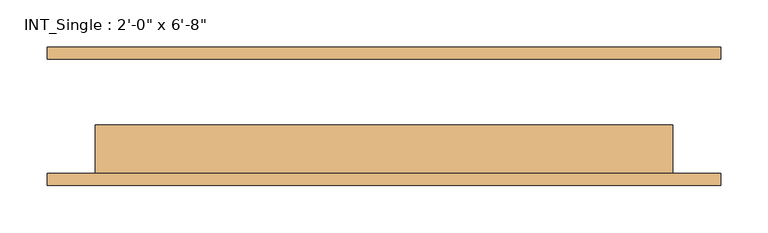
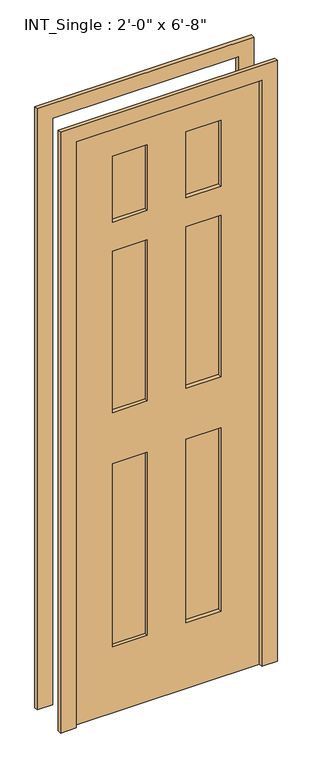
"""IFC4 building model written with IfcOpenShell, lengths in millimetres: door geometry."""

from ifc_helpers import new_model, si_unit, frame, origin, place, context, project, spatial, polyline, outline, extrude, source, transform, mapped, element, save


def door_b314dff3(model_context):
    return source(origin(), model_context, "Body", "SweptSolid", [
        extrude(outline(polyline([(0.0, -355.6), (0.0, -304.8), (2032.0, -304.8), (2032.0, 304.8), (0.0, 304.8), (0.0, 355.6), (2082.8, 355.6), (2082.8, -355.6), (0.0, -355.6)])), frame((0.0, 60.325, 0.0), z_axis=(0.0, 1.0, 0.0), x_axis=(0.0, 0.0, 1.0)), (0.0, 0.0, 1.0), 12.7),
        extrude(outline(polyline([(0.0, 355.6), (2082.8, 355.6), (2082.8, -355.6), (0.0, -355.6), (0.0, -304.8), (2032.0, -304.8), (2032.0, 304.8), (0.0, 304.8), (0.0, 355.6)])), frame((0.0, -73.025, 0.0), z_axis=(0.0, 1.0, 0.0), x_axis=(0.0, 0.0, 1.0)), (0.0, 0.0, 1.0), 12.7),
        extrude(outline(polyline([(-63.5, -22.225), (-63.5, -47.625), (-177.8, -47.625), (-177.8, -22.225), (-63.5, -22.225)])), frame((0.0, 0.0, 1701.8), z_axis=(0.0, 0.0, 1.0), x_axis=(1.0, 0.0, 0.0)), (0.0, 0.0, 1.0), 228.6),
        extrude(outline(polyline([(177.8, -22.225), (177.8, -47.625), (63.5, -47.625), (63.5, -22.225), (177.8, -22.225)])), frame((0.0, 0.0, 1701.8), z_axis=(0.0, 0.0, 1.0), x_axis=(1.0, 0.0, 0.0)), (0.0, 0.0, 1.0), 228.6),
        extrude(outline(polyline([(-63.5, -22.225), (-63.5, -47.625), (-177.8, -47.625), (-177.8, -22.225), (-63.5, -22.225)])), frame((0.0, 0.0, 1041.4), z_axis=(0.0, 0.0, 1.0), x_axis=(1.0, 0.0, 0.0)), (0.0, 0.0, 1.0), 558.8),
        extrude(outline(polyline([(177.8, -22.225), (177.8, -47.625), (63.5, -47.625), (63.5, -22.225), (177.8, -22.225)])), frame((0.0, 0.0, 1041.4), z_axis=(0.0, 0.0, 1.0), x_axis=(1.0, 0.0, 0.0)), (0.0, 0.0, 1.0), 558.8),
        extrude(outline(polyline([(-63.5, -22.225), (-63.5, -47.625), (-177.8, -47.625), (-177.8, -22.225), (-63.5, -22.225)])), frame((0.0, 0.0, 228.6), z_axis=(0.0, 0.0, 1.0), x_axis=(1.0, 0.0, 0.0)), (0.0, 0.0, 1.0), 635.0),
        extrude(outline(polyline([(177.8, -22.225), (177.8, -47.625), (63.5, -47.625), (63.5, -22.225), (177.8, -22.225)])), frame((0.0, 0.0, 228.6), z_axis=(0.0, 0.0, 1.0), x_axis=(1.0, 0.0, 0.0)), (0.0, 0.0, 1.0), 635.0),
        extrude(outline(polyline([(2032.0, 304.8), (2032.0, -304.8), (0.0, -304.8), (0.0, 304.8), (2032.0, 304.8)]), holes=[polyline([(1930.4, -63.5), (1701.8, -63.5), (1701.8, -177.8), (1930.4, -177.8), (1930.4, -63.5)]), polyline([(1930.4, 177.8), (1701.8, 177.8), (1701.8, 63.5), (1930.4, 63.5), (1930.4, 177.8)]), polyline([(1600.2, -63.5), (1041.4, -63.5), (1041.4, -177.8), (1600.2, -177.8), (1600.2, -63.5)]), polyline([(1600.2, 177.8), (1041.4, 177.8), (1041.4, 63.5), (1600.2, 63.5), (1600.2, 177.8)]), polyline([(863.6, -63.5), (228.6, -63.5), (228.6, -177.8), (863.6, -177.8), (863.6, -63.5)]), polyline([(863.6, 177.8), (228.6, 177.8), (228.6, 63.5), (863.6, 63.5), (863.6, 177.8)])]), frame((0.0, -60.325, 0.0), z_axis=(0.0, 1.0, 0.0), x_axis=(0.0, 0.0, 1.0)), (0.0, 0.0, 1.0), 50.8),
    ])


if __name__ == "__main__":
    model = new_model("IFC4")
    model_context = context("Model", 3, world=origin())
    ifc_project = project(units=[si_unit("LENGTHUNIT", "METRE", prefix="MILLI")], contexts=[model_context])
    site = spatial("IfcSite", under=ifc_project)
    building = spatial("IfcBuilding", under=site)
    placement = place(None, origin())
    door_shape = door_b314dff3(model_context)
    element("IfcDoor", 1, ObjectType="INT_Single : 2'-0\" x 6'-8\"", at=placement, inside=building, context=model_context, shape_type="MappedRepresentation", body=[
        mapped(door_shape, transform((0.0, 0.0, 0.0), x_axis=(1.0, 0.0, 0.0), y_axis=(0.0, 1.0, 0.0), z_axis=(0.0, 0.0, 1.0))),
    ])
    save(model, "model.ifc")
